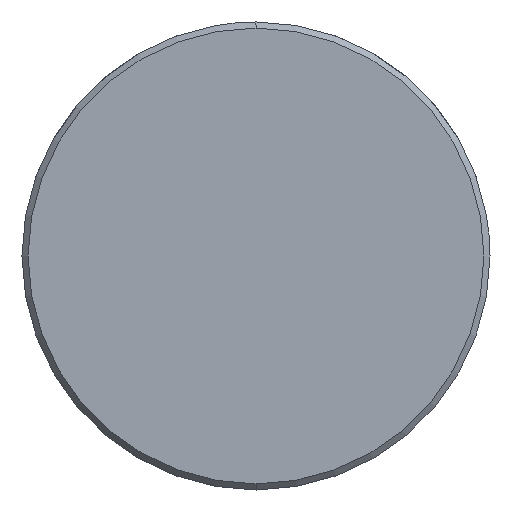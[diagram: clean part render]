
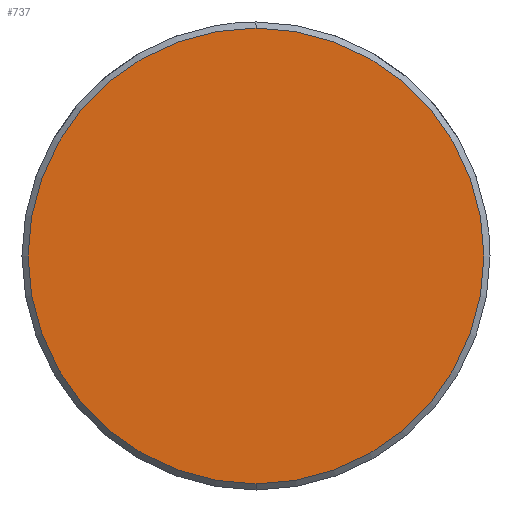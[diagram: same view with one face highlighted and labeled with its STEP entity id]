
A CAD part, left-side view. The second image highlights one B-rep face of the part: STEP entity #737.
In plain terms, the highlighted planar face has unit normal (-1, 0, 0).
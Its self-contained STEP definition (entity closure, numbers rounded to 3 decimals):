
#669=CARTESIAN_POINT('Vertex',(0.,0.,-11.2)) ;
#672=CARTESIAN_POINT('Axis2P3D Location',(0.,0.,0.)) ;
#676=CARTESIAN_POINT('Vertex',(0.,11.2,0.)) ;
#679=CARTESIAN_POINT('Axis2P3D Location',(0.,0.,0.)) ;
#683=CARTESIAN_POINT('Vertex',(0.,0.,11.2)) ;
#705=CARTESIAN_POINT('Axis2P3D Location',(0.,0.,0.)) ;
#709=CARTESIAN_POINT('Vertex',(0.,-11.2,0.)) ;
#712=CARTESIAN_POINT('Axis2P3D Location',(0.,0.,0.)) ;
#726=CARTESIAN_POINT('Axis2P3D Location',(0.,0.,0.)) ;
#673=DIRECTION('Axis2P3D Direction',(1.,0.,-0.)) ;
#680=DIRECTION('Axis2P3D Direction',(1.,0.,-0.)) ;
#706=DIRECTION('Axis2P3D Direction',(1.,0.,-0.)) ;
#713=DIRECTION('Axis2P3D Direction',(1.,0.,-0.)) ;
#727=DIRECTION('Axis2P3D Direction',(1.,0.,-0.)) ;
#728=DIRECTION('Axis2P3D XDirection',(-0.,0.,-1.)) ;
#674=AXIS2_PLACEMENT_3D('Circle Axis2P3D',#672,#673,$) ;
#681=AXIS2_PLACEMENT_3D('Circle Axis2P3D',#679,#680,$) ;
#707=AXIS2_PLACEMENT_3D('Circle Axis2P3D',#705,#706,$) ;
#714=AXIS2_PLACEMENT_3D('Circle Axis2P3D',#712,#713,$) ;
#729=AXIS2_PLACEMENT_3D('Plane Axis2P3D',#726,#727,#728) ;
#732=ORIENTED_EDGE('',*,*,#678,.F.) ;
#733=ORIENTED_EDGE('',*,*,#716,.F.) ;
#734=ORIENTED_EDGE('',*,*,#711,.F.) ;
#735=ORIENTED_EDGE('',*,*,#685,.F.) ;
#737=ADVANCED_FACE('549-20X160',(#736),#730,.F.) ;
#675=CIRCLE('generated circle',#674,11.2) ;
#682=CIRCLE('generated circle',#681,11.2) ;
#708=CIRCLE('generated circle',#707,11.2) ;
#715=CIRCLE('generated circle',#714,11.2) ;
#678=EDGE_CURVE('',#670,#677,#675,.T.) ;
#685=EDGE_CURVE('',#677,#684,#682,.T.) ;
#711=EDGE_CURVE('',#684,#710,#708,.T.) ;
#716=EDGE_CURVE('',#710,#670,#715,.T.) ;
#731=EDGE_LOOP('',(#732,#733,#734,#735)) ;
#736=FACE_OUTER_BOUND('',#731,.T.) ;
#730=PLANE('Plane',#729) ;
#670=VERTEX_POINT('',#669) ;
#677=VERTEX_POINT('',#676) ;
#684=VERTEX_POINT('',#683) ;
#710=VERTEX_POINT('',#709) ;
